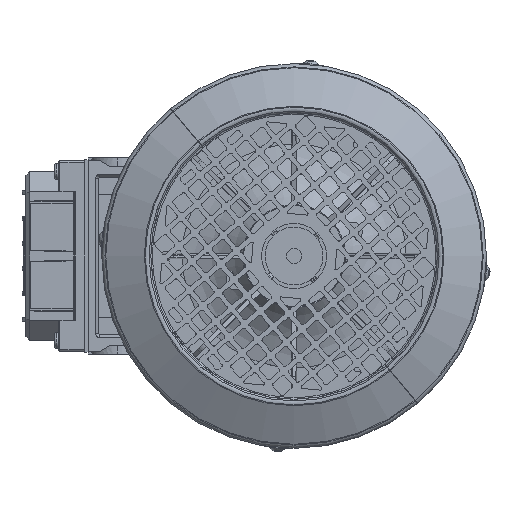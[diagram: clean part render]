
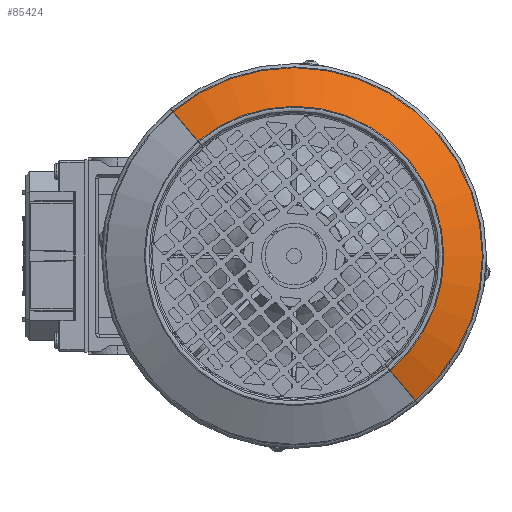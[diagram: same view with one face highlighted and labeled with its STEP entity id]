
A CAD part, left-side view. The second image highlights one B-rep face of the part: STEP entity #85424.
In plain terms, the highlighted conical face has half-angle 64 degrees and reference radius 97.315 mm.
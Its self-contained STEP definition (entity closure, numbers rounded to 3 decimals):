
#1824 = EDGE_CURVE ( 'NONE', #27301, #81503, #26651, .T. ) ;
#8223 = CARTESIAN_POINT ( 'NONE',  ( 0., 10.139, 0. ) ) ;
#8387 = EDGE_CURVE ( 'NONE', #81503, #93025, #83933, .T. ) ;
#8879 = ORIENTED_EDGE ( 'NONE', *, *, #87341, .F. ) ;
#9203 = CONICAL_SURFACE ( 'NONE', #87467, 97.315, 1.117 ) ;
#14494 = CARTESIAN_POINT ( 'NONE',  ( 0., 10.139, 0. ) ) ;
#14501 = FACE_OUTER_BOUND ( 'NONE', #37414, .T. ) ;
#16493 = DIRECTION ( 'NONE',  ( -0.899, 0.438, 0. ) ) ;
#16761 = DIRECTION ( 'NONE',  ( -1., 0., 0. ) ) ;
#17514 = CARTESIAN_POINT ( 'NONE',  ( -97.315, 10.139, 0. ) ) ;
#24119 = VECTOR ( 'NONE', #32550, 1000. ) ;
#26646 = ORIENTED_EDGE ( 'NONE', *, *, #90607, .F. ) ;
#26651 = CIRCLE ( 'NONE', #66365, 77.045 ) ;
#27301 = VERTEX_POINT ( 'NONE', #96887 ) ;
#32550 = DIRECTION ( 'NONE',  ( 0.899, 0.438, 0. ) ) ;
#33563 = CARTESIAN_POINT ( 'NONE',  ( -97.315, 10.139, 0. ) ) ;
#33603 = DIRECTION ( 'NONE',  ( 0., 1., 0. ) ) ;
#37414 = EDGE_LOOP ( 'NONE', ( #26646, #55345, #106585, #8879 ) ) ;
#38833 = VECTOR ( 'NONE', #16493, 1000. ) ;
#39759 = DIRECTION ( 'NONE',  ( -1., 0., 0. ) ) ;
#41089 = CARTESIAN_POINT ( 'NONE',  ( 97.315, 10.139, 0. ) ) ;
#43992 = VERTEX_POINT ( 'NONE', #76663 ) ;
#55345 = ORIENTED_EDGE ( 'NONE', *, *, #1824, .T. ) ;
#65507 = CARTESIAN_POINT ( 'NONE',  ( -77.045, 0.253, 0. ) ) ;
#66365 = AXIS2_PLACEMENT_3D ( 'NONE', #84425, #33603, #92961 ) ;
#67554 = DIRECTION ( 'NONE',  ( 0., 1., 0. ) ) ;
#76663 = CARTESIAN_POINT ( 'NONE',  ( 97.315, 10.139, 0. ) ) ;
#81503 = VERTEX_POINT ( 'NONE', #65507 ) ;
#83184 = CIRCLE ( 'NONE', #108898, 97.315 ) ;
#83933 = LINE ( 'NONE', #33563, #38833 ) ;
#84425 = CARTESIAN_POINT ( 'NONE',  ( 0., 0.253, 0. ) ) ;
#85424 = ADVANCED_FACE ( 'NONE', ( #14501 ), #9203, .T. ) ;
#87341 = EDGE_CURVE ( 'NONE', #43992, #93025, #83184, .T. ) ;
#87467 = AXIS2_PLACEMENT_3D ( 'NONE', #14494, #90569, #39759 ) ;
#90569 = DIRECTION ( 'NONE',  ( 0., 1., 0. ) ) ;
#90607 = EDGE_CURVE ( 'NONE', #27301, #43992, #91840, .T. ) ;
#91840 = LINE ( 'NONE', #41089, #24119 ) ;
#92961 = DIRECTION ( 'NONE',  ( -1., 0., 0. ) ) ;
#93025 = VERTEX_POINT ( 'NONE', #17514 ) ;
#96887 = CARTESIAN_POINT ( 'NONE',  ( 77.045, 0.253, 0. ) ) ;
#106585 = ORIENTED_EDGE ( 'NONE', *, *, #8387, .T. ) ;
#108898 = AXIS2_PLACEMENT_3D ( 'NONE', #8223, #67554, #16761 ) ;
